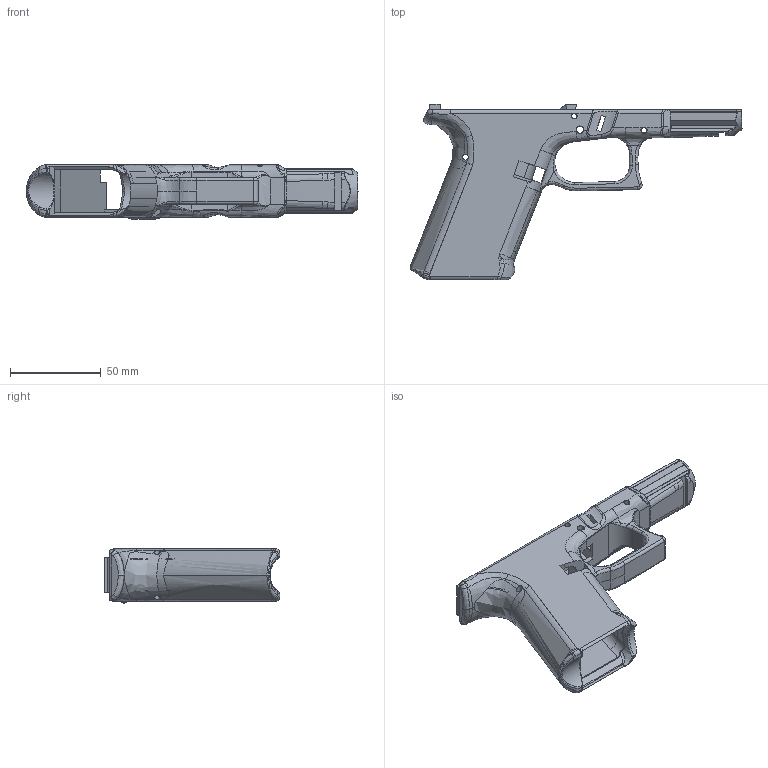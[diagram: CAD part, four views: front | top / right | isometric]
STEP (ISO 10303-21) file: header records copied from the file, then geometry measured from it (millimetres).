
FILE_DESCRIPTION(/* description */ (''),/* implementation_level */ '2;1');
FILE_NAME(/* name */ 'D:\~~GatCad\FMDA DD19.2\STEP\FMDA G19.2 V1.2.stp',/* time_stamp */ '2021-02-04T13:28:00-06:00',/* author */ ('johne'),/* organization */ (''),/* preprocessor_version */ 'ST-DEVELOPER v18',/* originating_system */ 'Autodesk Inventor 2020',/* authorisation */ '');
FILE_SCHEMA (('AUTOMOTIVE_DESIGN { 1 0 10303 214 3 1 1 }'));
Products named in the file (1): FMDA G19.2 V1.2
Bounding box: 183.22 x 97 x 29.84 mm (x, y, z)
Volume: 78244.7 mm3; surface area: 43625.4 mm2
Topology: 1 solids, 3 shells, 706 faces, 2010 edges, 1279 vertices
Faces by surface type: bspline 298, plane 201, cylinder 152, torus 31, cone 12, sphere 12
Full cylindrical faces by diameter (mm): 2 x1, 3 x4, 3.2 x2, 4 x2
Entity records: 55013 total; most frequent: CARTESIAN_POINT 37881, ORIENTED_EDGE 4000, DIRECTION 2756, EDGE_CURVE 2000, VERTEX_POINT 1282, AXIS2_PLACEMENT_3D 1010, LINE 736, VECTOR 736
